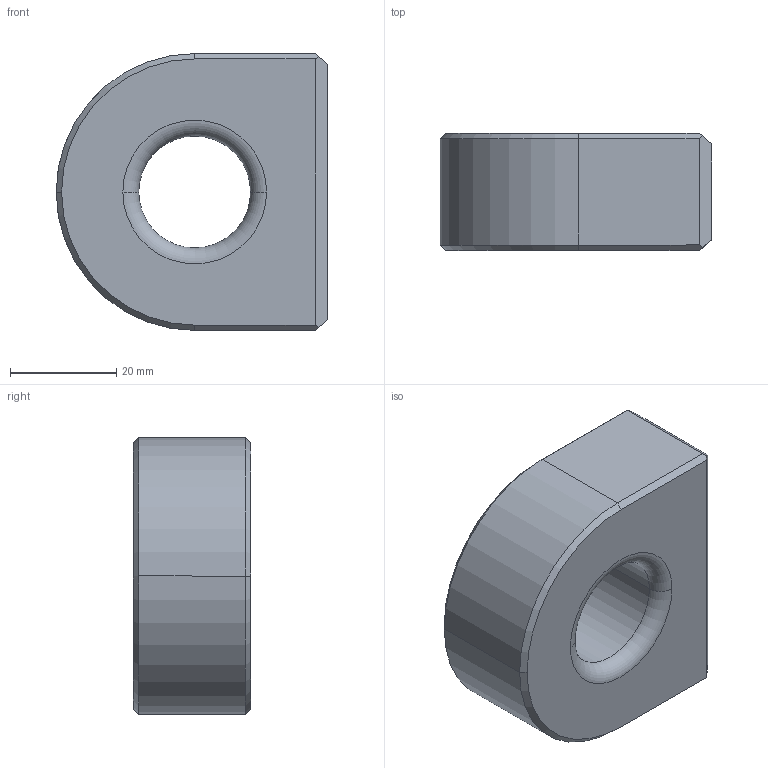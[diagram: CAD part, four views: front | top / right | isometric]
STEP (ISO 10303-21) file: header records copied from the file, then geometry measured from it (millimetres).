
FILE_DESCRIPTION (( 'STEP AP203' ), '1' );
FILE_NAME ('YYDK-500-0033-2 支架吊环（500T）.step', '2026-03-04T03:12:48', ( 'Windows 用户' ), ( '' ), 'SwSTEP 2.0', 'SolidWorks 2020', '' );
FILE_SCHEMA (( 'CONFIG_CONTROL_DESIGN' ));
Length unit declared in the file: millimetre
Products named in the file (1): YYDK-500-0033-2 支架吊环（500T）
Bounding box: 51.01 x 22.03 x 52 mm (x, y, z)
Volume: 43603.5 mm3; surface area: 9012.9 mm2
Topology: 1 solids, 1 shells, 24 faces, 57 edges, 35 vertices
Faces by surface type: plane 13, torus 4, cylinder 4, cone 3
Entity records: 769 total; most frequent: DIRECTION 126, CARTESIAN_POINT 117, ORIENTED_EDGE 114, EDGE_CURVE 57, AXIS2_PLACEMENT_3D 44, LINE 38, VECTOR 38, VERTEX_POINT 35
